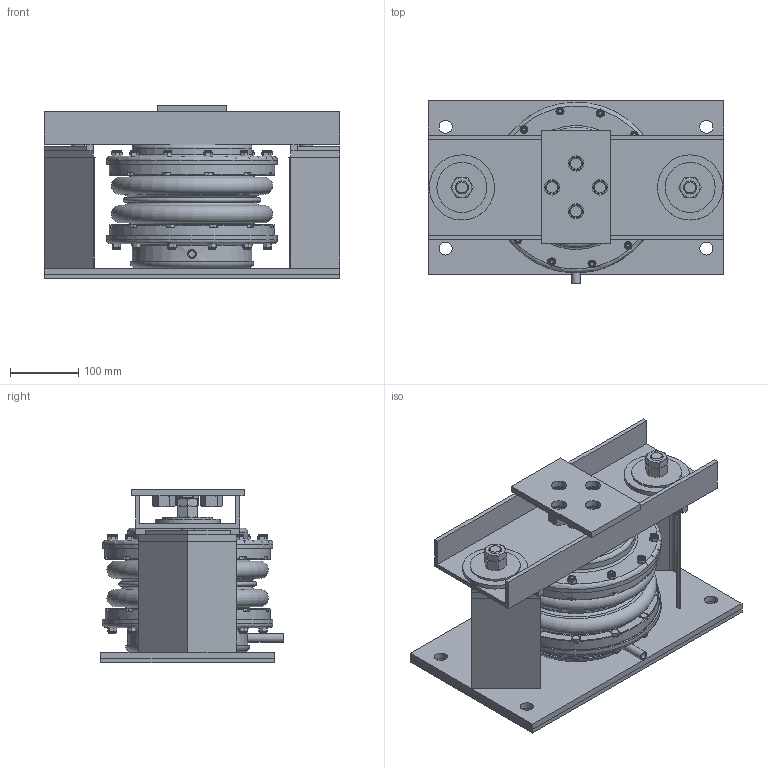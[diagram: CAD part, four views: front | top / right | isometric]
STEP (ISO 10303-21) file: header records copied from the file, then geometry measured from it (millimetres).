
FILE_DESCRIPTION(/* description */ (''),/* implementation_level */ '2;1');
FILE_NAME(/* name */ 'C:\001_Work\Designs\SLR MT\SLR-MT-6.stp',/* time_stamp */ '2016-06-12T12:24:58-04:00',/* author */ ('rramoutar'),/* organization */ ('Mason Industries Inc.'),/* preprocessor_version */ 'ST-DEVELOPER v15.6',/* originating_system */ 'Autodesk Inventor 2015',/* authorisation */ '');
FILE_SCHEMA (('CONFIG_CONTROL_DESIGN'));
Products named in the file (1): A-23157-1 SLR-MT 6 ASSY
Bounding box: 432.16 x 266.6 x 254 mm (x, y, z)
Volume: 5277835.9 mm3; surface area: 1355047 mm2
Topology: 2 solids, 8 shells, 2208 faces, 5516 edges, 3442 vertices
Faces by surface type: plane 1446, cone 327, cylinder 297, torus 138
Full cylindrical faces by diameter (mm): 6.35 x48, 6.604 x24, 6.747 x24, 7 x24, 7.144 x24, 9.525 x2, 9.6 x1, 10.592 x1, 11.112 x24, 11.125 x24, 12.6 x1, 13 x1, 16.307 x4, 19.05 x14, 19.507 x2, 20.637 x4, 20.93 x1, 22.225 x4, 25.4 x1, 26.67 x1, 28.575 x2, 32 x1, 38 x1, 38.1 x2, 44.45 x2, 73.025 x2, 80 x1, 86 x1, 95.25 x2, 128 x1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
Entity records: 64558 total; most frequent: CARTESIAN_POINT 14785, DIRECTION 10196, ORIENTED_EDGE 9640, EDGE_CURVE 4820, AXIS2_PLACEMENT_3D 4106, VERTEX_POINT 3176, EDGE_LOOP 2842, FACE_OUTER_BOUND 2208
